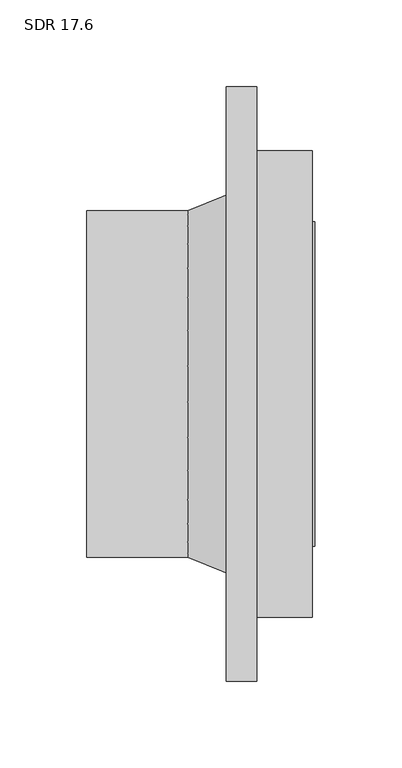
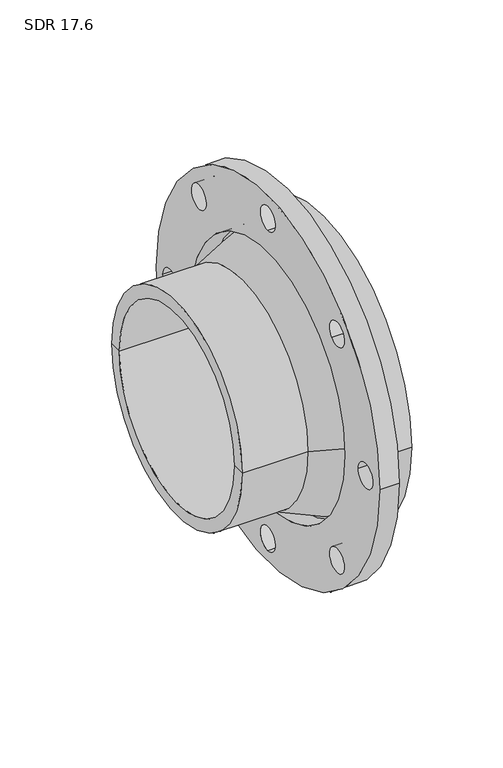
"""IFC4 building model written with IfcOpenShell, lengths in millimetres: valve geometry, Aquatherm - Flange Adapter Butt-Weld : SDR 17.6."""

import ifcopenshell
import ifcopenshell.guid

model = None  # the IFC model being written
_history = None  # IfcOwnerHistory: only IFC2X3 demands one
_inside = {}  # id of a spatial element -> (the spatial element, [elements in it])
_under = {}  # id of a project, library or spatial element -> (it, [spatial elements below it])
_declared = {}  # id of a project -> (the project, [libraries it declares])
_typed = {}  # id of a type object -> (the type object, [elements of that type])
_made_of = {}  # id of a material, layer set ... -> (it, [elements and type objects made of it])


def new_model(schema):
    """Start an empty IFC model of exactly this schema.

    Asked for "IFC4X3", IfcOpenShell would pick the latest addendum, in which some entities
    have other attributes; the version numbers below select the first issue.
    IFC2X3 requires an IfcOwnerHistory on every rooted entity: one is made here for all.
    """
    global model, _history
    if schema == "IFC4X3":
        model = ifcopenshell.file(schema_version=(4, 3, 0, 0))
    else:
        model = ifcopenshell.file(schema=schema)
    _inside.clear()
    _under.clear()
    _declared.clear()
    _typed.clear()
    _made_of.clear()
    _history = None
    if model.schema == "IFC2X3":
        org = make("IfcOrganization", Name="unknown")
        user = make(
            "IfcPersonAndOrganization",
            ThePerson=make("IfcPerson", FamilyName="unknown"),
            TheOrganization=org,
        )
        app = make(
            "IfcApplication",
            ApplicationDeveloper=org,
            Version="unknown",
            ApplicationFullName="unknown",
            ApplicationIdentifier="unknown",
        )
        _history = make(
            "IfcOwnerHistory",
            OwningUser=user,
            OwningApplication=app,
            ChangeAction="ADDED",
            CreationDate=0,
        )
    return model


def make(cls, **values):
    """One entity of the class cls with the attributes given. An attribute that is None is left unset."""
    return model.create_entity(
        cls, **{name: value for name, value in values.items() if value is not None}
    )


def rooted(cls, **values):
    """An entity with a GlobalId (a new one), such as an element, a storey or a relation."""
    return make(cls, GlobalId=ifcopenshell.guid.new(), OwnerHistory=_history, **values)


def si_unit(unit_type, name, prefix=None):
    """IfcSIUnit, for example si_unit("LENGTHUNIT", "METRE", prefix="MILLI")."""
    return make("IfcSIUnit", UnitType=unit_type, Prefix=prefix, Name=name)


def assignment(units):
    """IfcUnitAssignment: the units of a project."""
    return None if units is None else make("IfcUnitAssignment", Units=units)


def point(xyz):
    """IfcCartesianPoint."""
    return None if xyz is None else make("IfcCartesianPoint", Coordinates=xyz)


def direction(xyz):
    """IfcDirection."""
    return None if xyz is None else make("IfcDirection", DirectionRatios=xyz)


def frame(location, z_axis=None, x_axis=None):
    """IfcAxis2Placement3D, a coordinate frame: its origin and axes. An axis left out is left unset."""
    return make(
        "IfcAxis2Placement3D",
        Location=point(location),
        Axis=direction(z_axis),
        RefDirection=direction(x_axis),
    )


def frame_2d(location, x_axis=None):
    """IfcAxis2Placement2D, a coordinate frame in the plane: its origin and x axis."""
    return make(
        "IfcAxis2Placement2D", Location=point(location), RefDirection=direction(x_axis)
    )


def origin():
    """The frame at (0, 0, 0) with its axes left unset."""
    return frame((0.0, 0.0, 0.0))


def origin_2d():
    """The frame at (0, 0) in the plane with its x axis left unset."""
    return frame_2d((0.0, 0.0))


def place(relative_to, where):
    """IfcLocalPlacement: puts the frame where relative to a parent placement (None: the world)."""
    return make(
        "IfcLocalPlacement", PlacementRelTo=relative_to, RelativePlacement=where
    )


def context(
    kind, dimensions, precision=None, world=None, true_north=None, identifier=None
):
    """IfcGeometricRepresentationContext, for example the 3D "Model" context."""
    return make(
        "IfcGeometricRepresentationContext",
        ContextIdentifier=identifier,
        ContextType=kind,
        CoordinateSpaceDimension=dimensions,
        Precision=precision,
        WorldCoordinateSystem=world,
        TrueNorth=true_north,
    )


def project(units=None, contexts=None):
    """IfcProject with its units and contexts."""
    return rooted(
        "IfcProject",
        Name="project",
        RepresentationContexts=contexts,
        UnitsInContext=assignment(units),
    )


def spatial(cls, under=None, at=None, **own):
    """A site, building, storey or space (cls), placed at a placement, below another one or the project."""
    s = rooted(cls, ObjectPlacement=at, **own)
    if under is not None:
        _under.setdefault(under.id(), (under, []))[1].append(s)
    return s


def polyline(points):
    """IfcPolyline through the points."""
    return make("IfcPolyline", Points=[point(p) for p in points])


def circle_curve(where, radius):
    """IfcCircle in the frame where."""
    return make("IfcCircle", Position=where, Radius=radius)


def trimmed(basis, trim1, trim2, sense, master):
    """IfcTrimmedCurve: the piece of a basis curve between two trims."""
    return make(
        "IfcTrimmedCurve",
        BasisCurve=basis,
        Trim1=trim1,
        Trim2=trim2,
        SenseAgreement=sense,
        MasterRepresentation=master,
    )


def segment(curve, same_sense, transition):
    """IfcCompositeCurveSegment."""
    return make(
        "IfcCompositeCurveSegment",
        Transition=transition,
        SameSense=same_sense,
        ParentCurve=curve,
    )


def composite_curve(segments, self_intersect=None):
    """IfcCompositeCurve: segments joined end to end."""
    return make("IfcCompositeCurve", Segments=segments, SelfIntersect=self_intersect)


def outline(outer, holes=None, kind="AREA"):
    """IfcArbitraryClosedProfileDef: a profile drawn as a closed curve; with holes, ...WithVoids."""
    if holes is None:
        return make("IfcArbitraryClosedProfileDef", ProfileType=kind, OuterCurve=outer)
    return make(
        "IfcArbitraryProfileDefWithVoids",
        ProfileType=kind,
        OuterCurve=outer,
        InnerCurves=holes,
    )


def extrude(swept, where, along, depth):
    """IfcExtrudedAreaSolid: the profile swept, set in the frame where, extruded along a direction by depth."""
    return make(
        "IfcExtrudedAreaSolid",
        SweptArea=swept,
        Position=where,
        ExtrudedDirection=direction(along),
        Depth=depth,
    )


def shape(context_of_items, identifier, shape_type, items):
    """IfcShapeRepresentation: the items that make up one representation, for example the "Body"."""
    return make(
        "IfcShapeRepresentation",
        ContextOfItems=context_of_items,
        RepresentationIdentifier=identifier,
        RepresentationType=shape_type,
        Items=items,
    )


def source(mapping_origin, context_of_items, identifier, shape_type, items):
    """IfcRepresentationMap: a shape defined once, which mapped items show again and again."""
    return make(
        "IfcRepresentationMap",
        MappingOrigin=mapping_origin,
        MappedRepresentation=shape(context_of_items, identifier, shape_type, items),
    )


def transform(
    local_origin,
    x_axis=None,
    y_axis=None,
    z_axis=None,
    scale=None,
    scale2=None,
    scale3=None,
    uniform=True,
):
    """IfcCartesianTransformationOperator3D, or its non-uniform kind. x_axis, y_axis, z_axis: its Axis1, 2, 3."""
    if uniform:
        return make(
            "IfcCartesianTransformationOperator3D",
            Axis1=direction(x_axis),
            Axis2=direction(y_axis),
            LocalOrigin=point(local_origin),
            Scale=scale,
            Axis3=direction(z_axis),
        )
    return make(
        "IfcCartesianTransformationOperator3DnonUniform",
        Axis1=direction(x_axis),
        Axis2=direction(y_axis),
        LocalOrigin=point(local_origin),
        Scale=scale,
        Axis3=direction(z_axis),
        Scale2=scale2,
        Scale3=scale3,
    )


def mapped(mapping_source, mapping_target):
    """IfcMappedItem: shows the shape of a source again, moved by a transform."""
    return make(
        "IfcMappedItem", MappingSource=mapping_source, MappingTarget=mapping_target
    )


def made_of(thing, what):
    """Note that an element or type object is made of a material, layer set ...; save() writes the relation."""
    if what is not None:
        _made_of.setdefault(what.id(), (what, []))[1].append(thing)
    return thing


def element(
    cls,
    number,
    at=None,
    inside=None,
    cuts=None,
    type_object=None,
    material=None,
    context=None,
    identifier="Body",
    shape_type=None,
    held_by="IfcProductDefinitionShape",
    body=None,
    shapes=None,
    **own,
):
    """One element of the class cls, such as IfcWall. Its Tag is "e" and its number.

    at: its placement. inside: the storey or other place that contains it. cuts: it is an
    opening in that element (IfcRelVoidsElement). A single representation is given by context,
    identifier, shape_type and body (its items); several are given by shapes. held_by: the class
    of the entity that holds the representations. save() writes the other relations.
    """
    e = rooted(cls, Tag="e%d" % number, ObjectPlacement=at, **own)
    if body is not None:
        shapes = [shape(context, identifier, shape_type, body)]
    if shapes is not None:
        e.Representation = make(held_by, Representations=shapes)
    if inside is not None:
        _inside.setdefault(inside.id(), (inside, []))[1].append(e)
    if cuts is not None:
        rooted(
            "IfcRelVoidsElement", RelatingBuildingElement=cuts, RelatedOpeningElement=e
        )
    if type_object is not None:
        _typed.setdefault(type_object.id(), (type_object, []))[1].append(e)
    return made_of(e, material)


def aggregate(whole, parts):
    """IfcRelAggregates: a whole, such as a stair, and the parts it consists of."""
    return rooted("IfcRelAggregates", RelatingObject=whole, RelatedObjects=parts)


def save(model, path):
    """Write the relations noted so far, then the file.

    IfcRelAggregates (storeys below a building ...), IfcRelContainedInSpatialStructure (elements
    in a storey), IfcRelDefinesByType, IfcRelAssociatesMaterial and IfcRelDeclares: one each for
    every whole, place, type object, material and project.
    """
    for whole, parts in _under.values():
        aggregate(whole, parts)
    for where, things in _inside.values():
        rooted(
            "IfcRelContainedInSpatialStructure",
            RelatedElements=things,
            RelatingStructure=where,
        )
    for kind, things in _typed.values():
        rooted("IfcRelDefinesByType", RelatedObjects=things, RelatingType=kind)
    for what, things in _made_of.values():
        rooted("IfcRelAssociatesMaterial", RelatedObjects=things, RelatingMaterial=what)
    for by, libraries in _declared.values():
        rooted("IfcRelDeclares", RelatingContext=by, RelatedDefinitions=libraries)
    model.write(path)


def plane_surface(at):
    """IfcPlane: the flat surface through the origin of the frame at, square to its z axis."""
    return make("IfcPlane", Position=at)


def cylinder_surface(at, radius):
    """IfcCylindricalSurface: all points at the distance radius from the z axis of the frame at."""
    return make("IfcCylindricalSurface", Position=at, Radius=radius)


def revolved_surface(curve, axis_point, axis_direction):
    """IfcSurfaceOfRevolution: the curve turned about the line through axis_point along axis_direction."""
    return make(
        "IfcSurfaceOfRevolution",
        SweptCurve=make("IfcArbitraryOpenProfileDef", ProfileType="CURVE", Curve=curve),
        AxisPosition=make("IfcAxis1Placement", Location=point(axis_point), Axis=direction(axis_direction)),
    )


def advanced_brep(points, edges, surfaces, faces):
    """IfcAdvancedBrep: a solid bounded by faces that lie on surfaces and meet in shared edges.

    An edge is (start, end): straight between two places in points (the first is 0);
    or (start, end, curve); or (start, end, curve, False) where it runs against its curve.
    A face is (place in surfaces, loops), or (place, loops, False) where it looks against
    its surface's normal. A loop lists edges by number (the first is 1), with a minus sign
    where the edge is run from its end to its start. The first loop is the outer one.
    """
    corners = [point(p) for p in points]
    vertices = [make("IfcVertexPoint", VertexGeometry=c) for c in corners]
    made = []
    for start, end, *more in edges:
        made.append(
            make(
                "IfcEdgeCurve",
                EdgeStart=vertices[start],
                EdgeEnd=vertices[end],
                EdgeGeometry=more[0] if more else make("IfcPolyline", Points=[corners[start], corners[end]]),
                SameSense=more[1] if len(more) > 1 else True,
            )
        )
    hull = []
    for where, loops, *sense in faces:
        bounds = []
        for j, loop in enumerate(loops):
            ring = [make("IfcOrientedEdge", EdgeElement=made[abs(k) - 1], Orientation=k > 0) for k in loop]
            bounds.append(
                make(
                    "IfcFaceOuterBound" if j == 0 else "IfcFaceBound",
                    Bound=make("IfcEdgeLoop", EdgeList=ring),
                    Orientation=True,
                )
            )
        hull.append(make("IfcAdvancedFace", Bounds=bounds, FaceSurface=surfaces[where], SameSense=sense[0] if sense else True))
    return make("IfcAdvancedBrep", Outer=make("IfcClosedShell", CfsFaces=hull))


def sdr_17_6_621aa2d6(model_context):
    return source(origin(), model_context, "Body", "SolidModel", [
        extrude(outline(composite_curve([segment(trimmed(circle_curve(origin_2d(), 171.45), [point((-171.45, 0.0))], [point((171.45, 0.0))], False, "CARTESIAN"), True, "CONTINUOUS"), segment(trimmed(circle_curve(origin_2d(), 171.45), [point((171.45, 0.0))], [point((-171.45, 0.0))], False, "CARTESIAN"), True, "CONTINUOUS")], self_intersect=False), holes=[composite_curve([segment(trimmed(circle_curve(origin_2d(), 118.237), [point((-118.237, 0.0))], [point((118.237, 0.0))], True, "CARTESIAN"), True, "CONTINUOUS"), segment(trimmed(circle_curve(origin_2d(), 118.237), [point((118.237, 0.0))], [point((-118.237, 0.0))], True, "CARTESIAN"), True, "CONTINUOUS")], self_intersect=False), composite_curve([segment(trimmed(circle_curve(frame_2d((149.86, 0.0)), 11.176), [point((138.684, 0.0))], [point((161.036, 0.0))], True, "CARTESIAN"), True, "CONTINUOUS"), segment(trimmed(circle_curve(frame_2d((149.86, 0.0)), 11.176), [point((161.036, 0.0))], [point((138.684, 0.0))], True, "CARTESIAN"), True, "CONTINUOUS")], self_intersect=False), composite_curve([segment(trimmed(circle_curve(frame_2d((105.9670222, -105.9670222)), 11.176), [point((98.0643968, -98.0643968))], [point((113.8696476, -113.8696476))], True, "CARTESIAN"), True, "CONTINUOUS"), segment(trimmed(circle_curve(frame_2d((105.9670222, -105.9670222)), 11.176), [point((113.8696476, -113.8696476))], [point((98.0643968, -98.0643968))], True, "CARTESIAN"), True, "CONTINUOUS")], self_intersect=False), composite_curve([segment(trimmed(circle_curve(frame_2d((105.9670222, 105.9670222)), 11.176), [point((98.0643968, 98.0643968))], [point((113.8696476, 113.8696476))], True, "CARTESIAN"), True, "CONTINUOUS"), segment(trimmed(circle_curve(frame_2d((105.9670222, 105.9670222)), 11.176), [point((113.8696476, 113.8696476))], [point((98.0643968, 98.0643968))], True, "CARTESIAN"), True, "CONTINUOUS")], self_intersect=False), composite_curve([segment(trimmed(circle_curve(frame_2d((0.0, 149.86)), 11.176), [point((0.0, 138.684))], [point((0.0, 161.036))], True, "CARTESIAN"), True, "CONTINUOUS"), segment(trimmed(circle_curve(frame_2d((0.0, 149.86)), 11.176), [point((0.0, 161.036))], [point((0.0, 138.684))], True, "CARTESIAN"), True, "CONTINUOUS")], self_intersect=False), composite_curve([segment(trimmed(circle_curve(frame_2d((-105.9670222, 105.9670222)), 11.176), [point((-98.0643968, 98.0643968))], [point((-113.8696476, 113.8696476))], True, "CARTESIAN"), True, "CONTINUOUS"), segment(trimmed(circle_curve(frame_2d((-105.9670222, 105.9670222)), 11.176), [point((-113.8696476, 113.8696476))], [point((-98.0643968, 98.0643968))], True, "CARTESIAN"), True, "CONTINUOUS")], self_intersect=False), composite_curve([segment(trimmed(circle_curve(frame_2d((-149.86, 0.0)), 11.176), [point((-138.684, 0.0))], [point((-161.036, 0.0))], True, "CARTESIAN"), True, "CONTINUOUS"), segment(trimmed(circle_curve(frame_2d((-149.86, 0.0)), 11.176), [point((-161.036, 0.0))], [point((-138.684, 0.0))], True, "CARTESIAN"), True, "CONTINUOUS")], self_intersect=False), composite_curve([segment(trimmed(circle_curve(frame_2d((-105.9670222, -105.9670222)), 11.176), [point((-98.0643968, -98.0643968))], [point((-113.8696476, -113.8696476))], True, "CARTESIAN"), True, "CONTINUOUS"), segment(trimmed(circle_curve(frame_2d((-105.9670222, -105.9670222)), 11.176), [point((-113.8696476, -113.8696476))], [point((-98.0643968, -98.0643968))], True, "CARTESIAN"), True, "CONTINUOUS")], self_intersect=False), composite_curve([segment(trimmed(circle_curve(frame_2d((0.0, -149.86)), 11.176), [point((0.0, -138.684))], [point((0.0, -161.036))], True, "CARTESIAN"), True, "CONTINUOUS"), segment(trimmed(circle_curve(frame_2d((0.0, -149.86)), 11.176), [point((0.0, -161.036))], [point((0.0, -138.684))], True, "CARTESIAN"), True, "CONTINUOUS")], self_intersect=False)]), frame((-17.526, 0.0, 0.0), z_axis=(1.0, 0.0, 0.0), x_axis=(0.0, 1.0, 0.0)), (0.0, 0.0, 1.0), 17.526),
        advanced_brep(
        [(32.004, 134.62, 0.0), (32.004, -134.62, 0.0), (0.0, -134.62, 0.0), (0.0, 134.62, 0.0), (33.5915, 88.519, 0.0), (33.5915, -88.519, 0.0), (33.5915, -93.599, 0.0), (33.5915, 93.599, 0.0), (-98.044, 88.519, 0.0), (-98.044, -88.519, 0.0), (-98.044, 99.949, 0.0), (-98.044, -99.949, 0.0), (-39.878, 99.949, 0.0), (-39.878, -99.949, 0.0), (0.0, -115.951, 0.0), (0.0, 115.951, 0.0), (32.004, 93.599, 0.0), (32.004, -93.599, 0.0)],
        [
            (0, 1, circle_curve(frame((32.004, 0.0, 0.0), z_axis=(-1.0, 0.0, 0.0), x_axis=(0.0, -1.0, 0.0)), 134.62)),
            (1, 2),
            (2, 3, circle_curve(frame((0.0, 0.0, 0.0), z_axis=(1.0, 0.0, 0.0), x_axis=(0.0, -1.0, 0.0)), 134.62)),
            (3, 0),
            (1, 0, circle_curve(frame((32.004, 0.0, 0.0), z_axis=(-1.0, 0.0, 0.0), x_axis=(0.0, -1.0, 0.0)), 134.62)),
            (3, 2, circle_curve(frame((0.0, 0.0, 0.0), z_axis=(1.0, 0.0, 0.0), x_axis=(0.0, -1.0, 0.0)), 134.62)),
            (4, 5, circle_curve(frame((33.5915, 0.0, 0.0), z_axis=(-1.0, 0.0, 0.0), x_axis=(0.0, -1.0, 0.0)), 88.519)),
            (5, 6),
            (6, 7, circle_curve(frame((33.5915, 0.0, 0.0), z_axis=(1.0, 0.0, 0.0), x_axis=(0.0, -1.0, 0.0)), 93.599)),
            (7, 4),
            (5, 4, circle_curve(frame((33.5915, 0.0, 0.0), z_axis=(-1.0, 0.0, 0.0), x_axis=(0.0, -1.0, 0.0)), 88.519)),
            (7, 6, circle_curve(frame((33.5915, 0.0, 0.0), z_axis=(1.0, 0.0, 0.0), x_axis=(0.0, -1.0, 0.0)), 93.599)),
            (8, 9, circle_curve(frame((-98.044, 0.0, 0.0), z_axis=(-1.0, 0.0, 0.0), x_axis=(0.0, -1.0, 0.0)), 88.519)),
            (9, 5),
            (4, 8),
            (9, 8, circle_curve(frame((-98.044, 0.0, 0.0), z_axis=(-1.0, 0.0, 0.0), x_axis=(0.0, -1.0, 0.0)), 88.519)),
            (10, 11, circle_curve(frame((-98.044, 0.0, 0.0), z_axis=(-1.0, 0.0, 0.0), x_axis=(0.0, -1.0, 0.0)), 99.949)),
            (11, 9),
            (8, 10),
            (11, 10, circle_curve(frame((-98.044, 0.0, 0.0), z_axis=(-1.0, 0.0, 0.0), x_axis=(0.0, -1.0, 0.0)), 99.949)),
            (12, 13, circle_curve(frame((-39.878, 0.0, 0.0), z_axis=(-1.0, 0.0, 0.0), x_axis=(0.0, -1.0, 0.0)), 99.949)),
            (13, 11),
            (10, 12),
            (13, 12, circle_curve(frame((-39.878, 0.0, 0.0), z_axis=(-1.0, 0.0, 0.0), x_axis=(0.0, -1.0, 0.0)), 99.949)),
            (2, 14),
            (14, 15, circle_curve(frame((0.0, 0.0, 0.0), z_axis=(1.0, 0.0, 0.0), x_axis=(0.0, -1.0, 0.0)), 115.951)),
            (15, 3),
            (15, 14, circle_curve(frame((0.0, 0.0, 0.0), z_axis=(1.0, 0.0, 0.0), x_axis=(0.0, -1.0, 0.0)), 115.951)),
            (16, 17, circle_curve(frame((32.004, 0.0, 0.0), z_axis=(-1.0, 0.0, 0.0), x_axis=(0.0, -1.0, 0.0)), 93.599)),
            (17, 1),
            (0, 16),
            (17, 16, circle_curve(frame((32.004, 0.0, 0.0), z_axis=(-1.0, 0.0, 0.0), x_axis=(0.0, -1.0, 0.0)), 93.599)),
            (6, 17),
            (16, 7),
            (14, 13),
            (12, 15),
        ],
        [
            cylinder_surface(frame((1472.6429321, 0.0, 0.0), z_axis=(1.0, 0.0, 0.0), x_axis=(0.0, -1.0, 0.0)), 134.62),
            plane_surface(frame((33.5915, 0.0, 0.0), z_axis=(1.0, 0.0, 0.0), x_axis=(0.0, -1.0, 0.0))),
            revolved_surface(polyline([(33.591499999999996, -88.519, 0.0), (-98.0440000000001, -88.519, 0.0)]), (1472.6429321, 0.0, 0.0), (1.0, 0.0, 0.0)),
            plane_surface(frame((-98.044, 0.0, 0.0), z_axis=(-1.0, 0.0, 0.0), x_axis=(0.0, -1.0, 0.0))),
            cylinder_surface(frame((1472.6429321, 0.0, 0.0), z_axis=(1.0, 0.0, 0.0), x_axis=(0.0, -1.0, 0.0)), 99.949),
            plane_surface(frame((0.0, 0.0, 0.0), z_axis=(-1.0, 0.0, 0.0), x_axis=(0.0, -1.0, 0.0))),
            plane_surface(frame((32.004, 0.0, 0.0), z_axis=(1.0, 0.0, 0.0), x_axis=(0.0, -1.0, 0.0))),
            cylinder_surface(frame((1472.6429321, 0.0, 0.0), z_axis=(1.0, 0.0, 0.0), x_axis=(0.0, -1.0, 0.0)), 93.599),
            revolved_surface(polyline([(-39.878, -99.949, 0.0), (0.0, -115.951, 0.0)]), (1472.6429321, 0.0, 0.0), (1.0, 0.0, 0.0)),
        ],
        [
            (0, [[1, 2, 3, 4]]),
            (0, [[5, -4, 6, -2]]),
            (1, [[7, 8, 9, 10]]),
            (1, [[11, -10, 12, -8]]),
            (2, [[13, 14, -7, 15]]),
            (2, [[16, -15, -11, -14]]),
            (3, [[17, 18, -13, 19]]),
            (3, [[20, -19, -16, -18]]),
            (4, [[21, 22, -17, 23]]),
            (4, [[24, -23, -20, -22]]),
            (5, [[-3, 25, 26, 27]]),
            (5, [[-6, -27, 28, -25]]),
            (6, [[29, 30, -1, 31]]),
            (6, [[32, -31, -5, -30]]),
            (7, [[-9, 33, -29, 34]]),
            (7, [[-12, -34, -32, -33]]),
            (8, [[-26, 35, -21, 36]]),
            (8, [[-28, -36, -24, -35]]),
        ],
    ),
    ])


if __name__ == "__main__":
    model = new_model("IFC4")
    model_context = context("Model", 3, world=origin())
    ifc_project = project(units=[si_unit("LENGTHUNIT", "METRE", prefix="MILLI")], contexts=[model_context])
    site = spatial("IfcSite", under=ifc_project)
    building = spatial("IfcBuilding", under=site)
    placement = place(None, origin())
    sdr_17_6_shape = sdr_17_6_621aa2d6(model_context)
    element("IfcValve", 1, ObjectType="Aquatherm - Flange Adapter Butt-Weld : SDR 17.6", at=placement, inside=building, context=model_context, shape_type="MappedRepresentation", body=[
        mapped(sdr_17_6_shape, transform((0.0, 0.0, 0.0), x_axis=(1.0, 0.0, 0.0), y_axis=(0.0, 1.0, 0.0), z_axis=(0.0, 0.0, 1.0))),
    ])
    save(model, "model.ifc")
